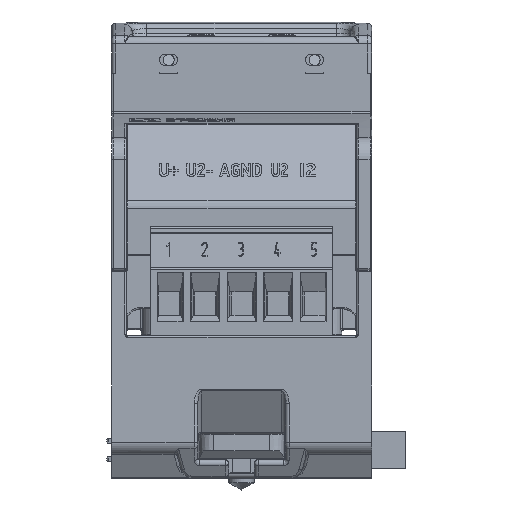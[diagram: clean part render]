
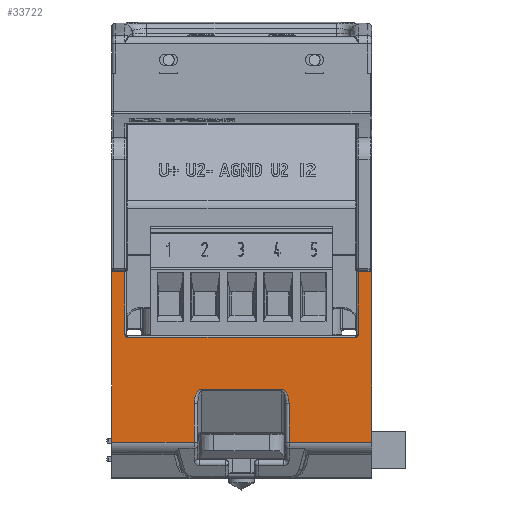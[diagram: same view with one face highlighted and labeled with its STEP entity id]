
A CAD part, front view. The second image highlights one B-rep face of the part: STEP entity #33722.
In plain terms, the highlighted planar face has unit normal (0, -1, 0).
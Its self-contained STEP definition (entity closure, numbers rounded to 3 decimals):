
#131 = ORIENTED_EDGE ( 'NONE', *, *, #141979, .T. ) ;
#3196 = DIRECTION ( 'NONE',  ( -1., 0., 0. ) ) ;
#8889 =( BOUNDED_CURVE ( )  B_SPLINE_CURVE ( 3, ( #106011, #203232, #199990, #28281 ),
 .UNSPECIFIED., .F., .F. ) 
 B_SPLINE_CURVE_WITH_KNOTS ( ( 4, 4 ),
 ( 1.571, 3.142 ),
 .UNSPECIFIED. ) 
 CURVE ( )  GEOMETRIC_REPRESENTATION_ITEM ( )  RATIONAL_B_SPLINE_CURVE ( ( 1., 0.805, 0.805, 1. ) ) 
 REPRESENTATION_ITEM ( '' )  );
#9304 = EDGE_CURVE ( 'NONE', #22826, #172244, #248573, .T. ) ;
#10297 = CARTESIAN_POINT ( 'NONE',  ( -17.8, -56., -0.2 ) ) ;
#10455 = VERTEX_POINT ( 'NONE', #147976 ) ;
#10529 = VERTEX_POINT ( 'NONE', #153730 ) ;
#18004 = CARTESIAN_POINT ( 'NONE',  ( 5.5, -56., -16.304 ) ) ;
#18560 = DIRECTION ( 'NONE',  ( 0., 0., 1. ) ) ;
#18585 = VECTOR ( 'NONE', #3196, 1000. ) ;
#18660 = ORIENTED_EDGE ( 'NONE', *, *, #204739, .T. ) ;
#20273 = ORIENTED_EDGE ( 'NONE', *, *, #180989, .T. ) ;
#22826 = VERTEX_POINT ( 'NONE', #112940 ) ;
#25668 = ORIENTED_EDGE ( 'NONE', *, *, #131135, .T. ) ;
#26183 = CARTESIAN_POINT ( 'NONE',  ( -15.6, -56., -9.2 ) ) ;
#26547 = VERTEX_POINT ( 'NONE', #46572 ) ;
#28281 = CARTESIAN_POINT ( 'NONE',  ( -5.5, -56., -16.304 ) ) ;
#30249 = EDGE_CURVE ( 'NONE', #43637, #26547, #96397, .T. ) ;
#30419 = LINE ( 'NONE', #209493, #120185 ) ;
#30648 = DIRECTION ( 'NONE',  ( 1., 0., 0. ) ) ;
#33722 = ADVANCED_FACE ( 'NONE', ( #84710 ), #223878, .F. ) ;
#34319 = CIRCLE ( 'NONE', #214618, 0.4 ) ;
#36637 = CARTESIAN_POINT ( 'NONE',  ( -6.5, -56., -18.304 ) ) ;
#39233 = CARTESIAN_POINT ( 'NONE',  ( 17.8, -56., 0. ) ) ;
#41861 = EDGE_CURVE ( 'NONE', #157515, #123010, #154362, .T. ) ;
#43637 = VERTEX_POINT ( 'NONE', #211407 ) ;
#46569 = VERTEX_POINT ( 'NONE', #10297 ) ;
#46572 = CARTESIAN_POINT ( 'NONE',  ( -6.5, -56., -23.574 ) ) ;
#47055 = LINE ( 'NONE', #242972, #70962 ) ;
#48895 = CARTESIAN_POINT ( 'NONE',  ( 17.8, -56., 0. ) ) ;
#48940 = ORIENTED_EDGE ( 'NONE', *, *, #9304, .T. ) ;
#50128 = VECTOR ( 'NONE', #95230, 1000. ) ;
#50567 = DIRECTION ( 'NONE',  ( 1., 0., 0. ) ) ;
#54075 = CARTESIAN_POINT ( 'NONE',  ( -15.8, -56., -9.2 ) ) ;
#57837 = DIRECTION ( 'NONE',  ( 1., 0., 0. ) ) ;
#63204 = DIRECTION ( 'NONE',  ( 0., 0., -1. ) ) ;
#70962 = VECTOR ( 'NONE', #165893, 1000. ) ;
#75802 = CARTESIAN_POINT ( 'NONE',  ( 17.8, -56., -0.2 ) ) ;
#77889 = VECTOR ( 'NONE', #185192, 1000. ) ;
#81037 = DIRECTION ( 'NONE',  ( 0., 0., 1. ) ) ;
#81454 = LINE ( 'NONE', #94075, #243333 ) ;
#84710 = FACE_OUTER_BOUND ( 'NONE', #150226, .T. ) ;
#86837 = VERTEX_POINT ( 'NONE', #170183 ) ;
#88394 = VERTEX_POINT ( 'NONE', #75802 ) ;
#88434 = VECTOR ( 'NONE', #129429, 1000. ) ;
#93394 = EDGE_CURVE ( 'NONE', #238120, #10455, #243948, .T. ) ;
#94075 = CARTESIAN_POINT ( 'NONE',  ( 17.8, -56., -0.2 ) ) ;
#94103 = ORIENTED_EDGE ( 'NONE', *, *, #213920, .T. ) ;
#95230 = DIRECTION ( 'NONE',  ( 0., 0., -1. ) ) ;
#96339 = LINE ( 'NONE', #232798, #18585 ) ;
#96397 = LINE ( 'NONE', #239293, #174378 ) ;
#100741 = ORIENTED_EDGE ( 'NONE', *, *, #235932, .T. ) ;
#101363 =( BOUNDED_CURVE ( )  B_SPLINE_CURVE ( 3, ( #128565, #109312, #205762, #204063 ),
 .UNSPECIFIED., .F., .F. ) 
 B_SPLINE_CURVE_WITH_KNOTS ( ( 4, 4 ),
 ( 3.142, 4.712 ),
 .UNSPECIFIED. ) 
 CURVE ( )  GEOMETRIC_REPRESENTATION_ITEM ( )  RATIONAL_B_SPLINE_CURVE ( ( 1., 0.805, 0.805, 1. ) ) 
 REPRESENTATION_ITEM ( '' )  );
#102074 = DIRECTION ( 'NONE',  ( 0., 0., -1. ) ) ;
#106011 = CARTESIAN_POINT ( 'NONE',  ( -6.5, -56., -18.304 ) ) ;
#106867 = ORIENTED_EDGE ( 'NONE', *, *, #235646, .F. ) ;
#109312 = CARTESIAN_POINT ( 'NONE',  ( 6.086, -56., -16.304 ) ) ;
#109707 = CARTESIAN_POINT ( 'NONE',  ( -17.8, -56., 0. ) ) ;
#112940 = CARTESIAN_POINT ( 'NONE',  ( -16., -56., -8.8 ) ) ;
#113587 = VECTOR ( 'NONE', #18560, 1000. ) ;
#114627 = DIRECTION ( 'NONE',  ( 0., -1., 0. ) ) ;
#116231 = VECTOR ( 'NONE', #50567, 1000. ) ;
#117505 = EDGE_CURVE ( 'NONE', #172244, #46569, #96339, .T. ) ;
#117952 = CARTESIAN_POINT ( 'NONE',  ( 15.6, -56., -9.2 ) ) ;
#120185 = VECTOR ( 'NONE', #57837, 1000. ) ;
#123010 = VERTEX_POINT ( 'NONE', #26183 ) ;
#127745 = CARTESIAN_POINT ( 'NONE',  ( -5.5, -56., -16.304 ) ) ;
#128565 = CARTESIAN_POINT ( 'NONE',  ( 5.5, -56., -16.304 ) ) ;
#129429 = DIRECTION ( 'NONE',  ( -1., 0., 0. ) ) ;
#131135 = EDGE_CURVE ( 'NONE', #224182, #247866, #30419, .T. ) ;
#135034 = ORIENTED_EDGE ( 'NONE', *, *, #192081, .T. ) ;
#139285 = CARTESIAN_POINT ( 'NONE',  ( 17.8, -56., -23.574 ) ) ;
#139774 = DIRECTION ( 'NONE',  ( 0., -1., 0. ) ) ;
#139984 = EDGE_CURVE ( 'NONE', #22826, #123010, #185856, .T. ) ;
#141979 = EDGE_CURVE ( 'NONE', #26547, #155242, #47055, .T. ) ;
#145170 = DIRECTION ( 'NONE',  ( 0., 1., 0. ) ) ;
#147976 = CARTESIAN_POINT ( 'NONE',  ( 6.5, -56., -23.574 ) ) ;
#150226 = EDGE_LOOP ( 'NONE', ( #106867, #94103, #196401, #207978, #243801, #163711, #48940, #189496, #135034, #223629, #131, #20273, #25668, #100741, #184222, #18660 ) ) ;
#153730 = CARTESIAN_POINT ( 'NONE',  ( 16., -56., -8.8 ) ) ;
#154114 = CARTESIAN_POINT ( 'NONE',  ( 15.6, -56., -8.8 ) ) ;
#154362 = LINE ( 'NONE', #54075, #88434 ) ;
#155242 = VERTEX_POINT ( 'NONE', #36637 ) ;
#157153 = AXIS2_PLACEMENT_3D ( 'NONE', #48895, #145170, #241545 ) ;
#157515 = VERTEX_POINT ( 'NONE', #117952 ) ;
#161580 = LINE ( 'NONE', #109707, #77889 ) ;
#163711 = ORIENTED_EDGE ( 'NONE', *, *, #139984, .F. ) ;
#165893 = DIRECTION ( 'NONE',  ( 0., 0., 1. ) ) ;
#168640 = VECTOR ( 'NONE', #102074, 1000. ) ;
#170183 = CARTESIAN_POINT ( 'NONE',  ( 16., -56., -0.2 ) ) ;
#170769 = EDGE_CURVE ( 'NONE', #157515, #10529, #34319, .T. ) ;
#172244 = VERTEX_POINT ( 'NONE', #218730 ) ;
#173266 = LINE ( 'NONE', #222261, #116231 ) ;
#174378 = VECTOR ( 'NONE', #30648, 1000. ) ;
#180517 = CARTESIAN_POINT ( 'NONE',  ( 6.5, -56., 0. ) ) ;
#180989 = EDGE_CURVE ( 'NONE', #155242, #224182, #8889, .T. ) ;
#181010 = VECTOR ( 'NONE', #63204, 1000. ) ;
#184222 = ORIENTED_EDGE ( 'NONE', *, *, #93394, .T. ) ;
#185192 = DIRECTION ( 'NONE',  ( 0., 0., -1. ) ) ;
#185856 = CIRCLE ( 'NONE', #222807, 0.4 ) ;
#189496 = ORIENTED_EDGE ( 'NONE', *, *, #117505, .T. ) ;
#192081 = EDGE_CURVE ( 'NONE', #46569, #43637, #161580, .T. ) ;
#194271 = DIRECTION ( 'NONE',  ( 0., 0., 1. ) ) ;
#196401 = ORIENTED_EDGE ( 'NONE', *, *, #213099, .T. ) ;
#199440 = CARTESIAN_POINT ( 'NONE',  ( 16., -56., -9. ) ) ;
#199990 = CARTESIAN_POINT ( 'NONE',  ( -6.086, -56., -16.304 ) ) ;
#203232 = CARTESIAN_POINT ( 'NONE',  ( -6.5, -56., -17.132 ) ) ;
#204063 = CARTESIAN_POINT ( 'NONE',  ( 6.5, -56., -18.304 ) ) ;
#204739 = EDGE_CURVE ( 'NONE', #10455, #228390, #173266, .T. ) ;
#205762 = CARTESIAN_POINT ( 'NONE',  ( 6.5, -56., -17.132 ) ) ;
#207978 = ORIENTED_EDGE ( 'NONE', *, *, #170769, .F. ) ;
#209493 = CARTESIAN_POINT ( 'NONE',  ( 17.8, -56., -16.304 ) ) ;
#211407 = CARTESIAN_POINT ( 'NONE',  ( -17.8, -56., -23.574 ) ) ;
#213099 = EDGE_CURVE ( 'NONE', #86837, #10529, #219680, .T. ) ;
#213920 = EDGE_CURVE ( 'NONE', #88394, #86837, #81454, .T. ) ;
#214618 = AXIS2_PLACEMENT_3D ( 'NONE', #154114, #114627, #194271 ) ;
#218730 = CARTESIAN_POINT ( 'NONE',  ( -16., -56., -0.2 ) ) ;
#219680 = LINE ( 'NONE', #199440, #168640 ) ;
#221001 = CARTESIAN_POINT ( 'NONE',  ( 6.5, -56., -18.304 ) ) ;
#222261 = CARTESIAN_POINT ( 'NONE',  ( 17.8, -56., -23.574 ) ) ;
#222807 = AXIS2_PLACEMENT_3D ( 'NONE', #235348, #139774, #81037 ) ;
#223629 = ORIENTED_EDGE ( 'NONE', *, *, #30249, .T. ) ;
#223878 = PLANE ( 'NONE',  #157153 ) ;
#224182 = VERTEX_POINT ( 'NONE', #127745 ) ;
#228390 = VERTEX_POINT ( 'NONE', #139285 ) ;
#232798 = CARTESIAN_POINT ( 'NONE',  ( 17.8, -56., -0.2 ) ) ;
#235348 = CARTESIAN_POINT ( 'NONE',  ( -15.6, -56., -8.8 ) ) ;
#235646 = EDGE_CURVE ( 'NONE', #88394, #228390, #247913, .T. ) ;
#235932 = EDGE_CURVE ( 'NONE', #247866, #238120, #101363, .T. ) ;
#238120 = VERTEX_POINT ( 'NONE', #221001 ) ;
#239293 = CARTESIAN_POINT ( 'NONE',  ( 17.8, -56., -23.574 ) ) ;
#241545 = DIRECTION ( 'NONE',  ( 0., 0., 1. ) ) ;
#242972 = CARTESIAN_POINT ( 'NONE',  ( -6.5, -56., 0. ) ) ;
#243333 = VECTOR ( 'NONE', #247519, 1000. ) ;
#243801 = ORIENTED_EDGE ( 'NONE', *, *, #41861, .T. ) ;
#243948 = LINE ( 'NONE', #180517, #181010 ) ;
#247519 = DIRECTION ( 'NONE',  ( -1., 0., 0. ) ) ;
#247866 = VERTEX_POINT ( 'NONE', #18004 ) ;
#247913 = LINE ( 'NONE', #39233, #50128 ) ;
#248089 = CARTESIAN_POINT ( 'NONE',  ( -16., -56., 0. ) ) ;
#248573 = LINE ( 'NONE', #248089, #113587 ) ;
